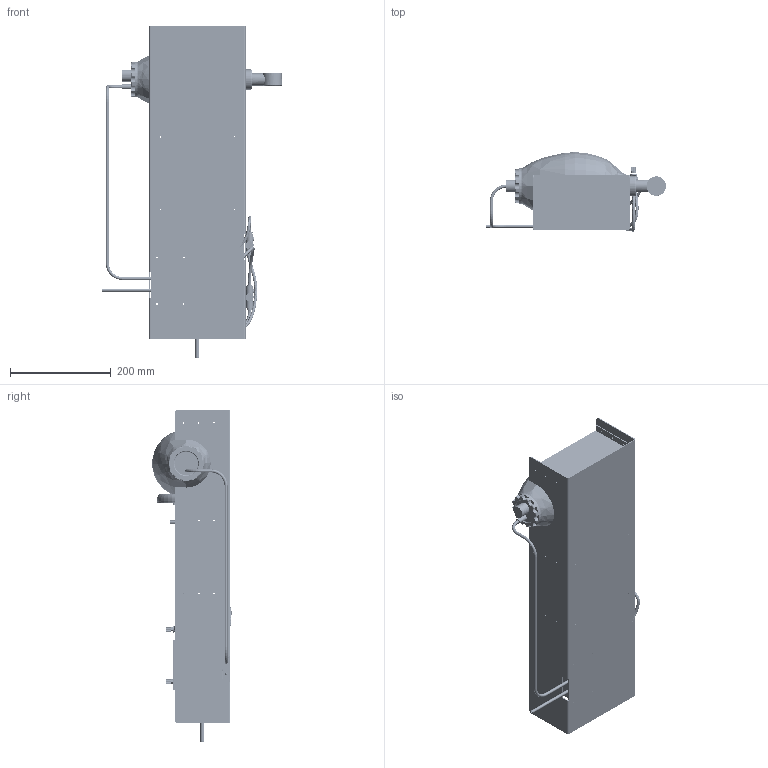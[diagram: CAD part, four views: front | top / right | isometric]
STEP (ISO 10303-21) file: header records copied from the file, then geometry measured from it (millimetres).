
FILE_DESCRIPTION (( 'STEP AP203' ), '1' );
FILE_NAME ('GTV-A-001.STEP', '2020-03-30T10:33:24', ( 'Windows User' ), ( '' ), 'SwSTEP 2.0', 'SolidWorks 2017', '' );
FILE_SCHEMA (( 'CONFIG_CONTROL_DESIGN' ));
Length unit declared in the file: millimetre
Products named in the file (49): GTV-P-002; GTV-P-010; GTV-P-040; GTV-P-033; GTV-P-031; GTV-P-025; GTV-P-011; GTV-A-001; GTV-A-006; GTV-P-036; GTV-P-008; GTV-A-003; GTV-P-035; GTV-P-045; GTV-P-037; M2 Screw; GTV-P-024; GTV-P-030; GTV-P-046; GTV-P-020; GTV-P-029; GTV-P-023_extended; GTV-P-012; GTV-P-041; GTV-P-034; GTV-P-032; GTV-P-043; GTV-P-039; GTV-P-028; GTV-P-038; GTV-P-044; GTV-P-026; GTV-P-019; GTV-P-006; GTV-A-005; M3 Bolt x 30L; GTV-P-009; GTV-A-008; GTV-P-004; GTV-P-003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
Assembly tree (61 placements, depth 5):
  GTV-A-001
    GTV-P-001
    GTV-P-002  x2
    GTV-P-003
    GTV-P-004  x2
    GTV-A-003
      GTV-P-036
      GTV-P-037
      GTV-P-038
      GTV-P-039
      GTV-P-040
      GTV-P-041
      GTV-P-042
    GTV-A-005
      GTV-P-006
      GTV-P-007
      GTV-P-008
      GTV-P-009
      GTV-P-010
      GTV-P-011
      GTV-P-012  x2
      GTV-P-013
      GTV-P-043  x2
      GTV-P-044
      GTV-P-045  x2
      GTV-P-046  x2
      GTV-A-006
        GTV-P-014
        GTV-P-020
        GTV-P-019
        GTV-P-021
      GTV-A-007
        GTV-P-022
        GTV-P-023_extended
        GTV-P-024  x2
        GTV-P-025
        GTV-P-026
        GTV-P-027
        GTV-P-028  x2
        GTV-P-029  x2
        GTV-P-030
        GTV-P-031
        GTV-P-032
        GTV-A-008
          GTV-P-033
          GTV-P-034
          GTV-P-035  x4
        M3 Bolt x 30L
        M2 Screw  x2
Bounding box: 356.99 x 157.04 x 658 mm (x, y, z)
Volume: 3271694.4 mm3; surface area: 1039362.2 mm2
Topology: 71 solids, 71 shells, 2574 faces, 6386 edges, 4003 vertices
Faces by surface type: cylinder 1012, plane 981, torus 261, cone 178, bspline 120, sphere 22
Entity records: 109649 total; most frequent: CARTESIAN_POINT 56961, DIRECTION 10432, ORIENTED_EDGE 9498, EDGE_CURVE 4749, AXIS2_PLACEMENT_3D 4028, VERTEX_POINT 2997, VECTOR 2376, LINE 2376
